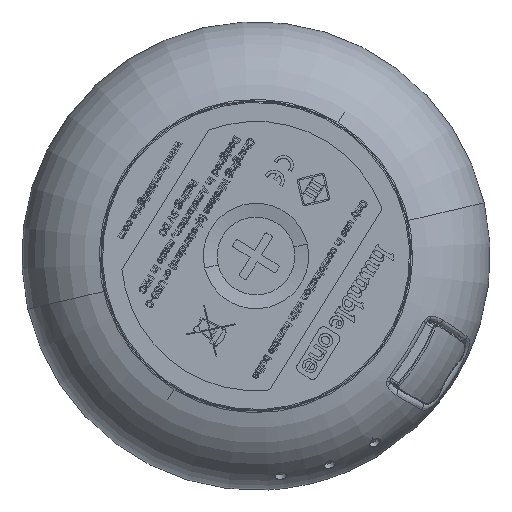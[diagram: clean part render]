
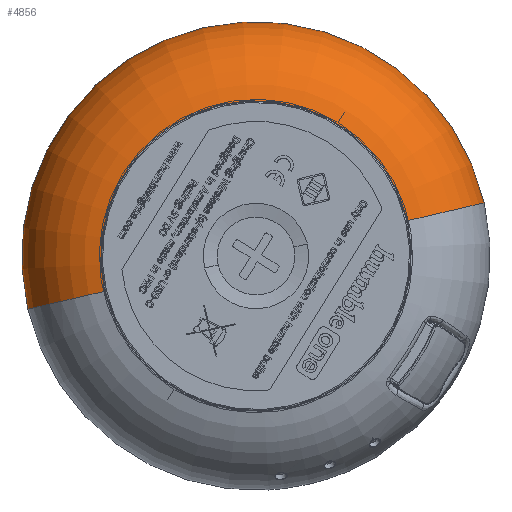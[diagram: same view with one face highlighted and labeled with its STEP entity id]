
A CAD part, front view. The second image highlights one B-rep face of the part: STEP entity #4856.
In plain terms, the highlighted toroidal (fillet/blend) face has major radius 24.7 mm and minor radius 17.5 mm.
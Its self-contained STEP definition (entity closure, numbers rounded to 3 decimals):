
#4856 = ADVANCED_FACE ( 'NONE', ( #107897 ), #64870, .T. ) ;
#17197 = DIRECTION ( 'NONE',  ( -0.711, 0.703, 0. ) ) ;
#25121 = VERTEX_POINT ( 'NONE', #62149 ) ;
#32454 = ORIENTED_EDGE ( 'NONE', *, *, #85530, .T. ) ;
#34349 = CARTESIAN_POINT ( 'NONE',  ( -22.222, 133.8, -57.535 ) ) ;
#36879 = CIRCLE ( 'NONE', #126225, 28. ) ;
#38036 = DIRECTION ( 'NONE',  ( 0., 0., 1. ) ) ;
#40845 = AXIS2_PLACEMENT_3D ( 'NONE', #97386, #154727, #45440 ) ;
#42971 = DIRECTION ( 'NONE',  ( 0., 0., -1. ) ) ;
#43764 = CARTESIAN_POINT ( 'NONE',  ( 7.592, 104.317, -60.596 ) ) ;
#45440 = DIRECTION ( 'NONE',  ( 0.711, -0.703, 0. ) ) ;
#45577 = AXIS2_PLACEMENT_3D ( 'NONE', #89687, #75268, #65704 ) ;
#50019 = DIRECTION ( 'NONE',  ( -0.711, 0.703, 0. ) ) ;
#52600 = AXIS2_PLACEMENT_3D ( 'NONE', #149470, #125696, #76901 ) ;
#55294 = EDGE_CURVE ( 'NONE', #145829, #145319, #148111, .T. ) ;
#55856 = EDGE_CURVE ( 'NONE', #145829, #124710, #79506, .T. ) ;
#62149 = CARTESIAN_POINT ( 'NONE',  ( -12.317, 124.005, -77.782 ) ) ;
#63783 = DIRECTION ( 'NONE',  ( -0.703, -0.711, 0. ) ) ;
#64870 = TOROIDAL_SURFACE ( 'NONE', #131267, 24.7, 17.5 ) ;
#65704 = DIRECTION ( 'NONE',  ( -0.711, 0.703, 0. ) ) ;
#65974 = DIRECTION ( 'NONE',  ( 0.703, 0.711, 0. ) ) ;
#66145 = DIRECTION ( 'NONE',  ( -0.711, 0.703, 0. ) ) ;
#67771 = ORIENTED_EDGE ( 'NONE', *, *, #55856, .F. ) ;
#74768 = CARTESIAN_POINT ( 'NONE',  ( 7.592, 104.317, -77.782 ) ) ;
#75268 = DIRECTION ( 'NONE',  ( 0., 0., 1. ) ) ;
#75832 = ORIENTED_EDGE ( 'NONE', *, *, #97721, .T. ) ;
#76901 = DIRECTION ( 'NONE',  ( -0.703, -0.711, 0. ) ) ;
#78716 = CARTESIAN_POINT ( 'NONE',  ( 25.155, 86.95, -60.596 ) ) ;
#79137 = VERTEX_POINT ( 'NONE', #34349 ) ;
#79506 = CIRCLE ( 'NONE', #135572, 17.5 ) ;
#80091 = EDGE_LOOP ( 'NONE', ( #67771, #99413, #32454, #119848, #125474, #75832 ) ) ;
#83346 = EDGE_CURVE ( 'NONE', #25121, #133688, #36879, .T. ) ;
#85530 = EDGE_CURVE ( 'NONE', #145319, #79137, #103686, .T. ) ;
#87051 = AXIS2_PLACEMENT_3D ( 'NONE', #136446, #137226, #63783 ) ;
#89302 = CIRCLE ( 'NONE', #40845, 17.5 ) ;
#89687 = CARTESIAN_POINT ( 'NONE',  ( 7.592, 104.317, -77.782 ) ) ;
#97386 = CARTESIAN_POINT ( 'NONE',  ( -9.971, 121.685, -60.596 ) ) ;
#97721 = EDGE_CURVE ( 'NONE', #133688, #124710, #114440, .T. ) ;
#99413 = ORIENTED_EDGE ( 'NONE', *, *, #55294, .T. ) ;
#103686 = CIRCLE ( 'NONE', #52600, 41.93 ) ;
#107541 = CARTESIAN_POINT ( 'NONE',  ( -21.891, 74.503, -57.535 ) ) ;
#107897 = FACE_OUTER_BOUND ( 'NONE', #80091, .T. ) ;
#112444 = CARTESIAN_POINT ( 'NONE',  ( -12.096, 84.408, -77.782 ) ) ;
#114440 = CIRCLE ( 'NONE', #45577, 28. ) ;
#114752 = CARTESIAN_POINT ( 'NONE',  ( 27.501, 84.629, -77.782 ) ) ;
#119848 = ORIENTED_EDGE ( 'NONE', *, *, #151357, .T. ) ;
#124710 = VERTEX_POINT ( 'NONE', #114752 ) ;
#125474 = ORIENTED_EDGE ( 'NONE', *, *, #83346, .T. ) ;
#125696 = DIRECTION ( 'NONE',  ( 0., 0., -1. ) ) ;
#126225 = AXIS2_PLACEMENT_3D ( 'NONE', #74768, #38036, #50019 ) ;
#131267 = AXIS2_PLACEMENT_3D ( 'NONE', #43764, #42971, #66145 ) ;
#133688 = VERTEX_POINT ( 'NONE', #112444 ) ;
#134377 = CARTESIAN_POINT ( 'NONE',  ( 37.407, 74.834, -57.535 ) ) ;
#135572 = AXIS2_PLACEMENT_3D ( 'NONE', #78716, #65974, #17197 ) ;
#136446 = CARTESIAN_POINT ( 'NONE',  ( 7.592, 104.317, -57.535 ) ) ;
#137226 = DIRECTION ( 'NONE',  ( 0., 0., -1. ) ) ;
#145319 = VERTEX_POINT ( 'NONE', #107541 ) ;
#145829 = VERTEX_POINT ( 'NONE', #134377 ) ;
#148111 = CIRCLE ( 'NONE', #87051, 41.93 ) ;
#149470 = CARTESIAN_POINT ( 'NONE',  ( 7.592, 104.317, -57.535 ) ) ;
#151357 = EDGE_CURVE ( 'NONE', #79137, #25121, #89302, .T. ) ;
#154727 = DIRECTION ( 'NONE',  ( -0.703, -0.711, 0. ) ) ;
